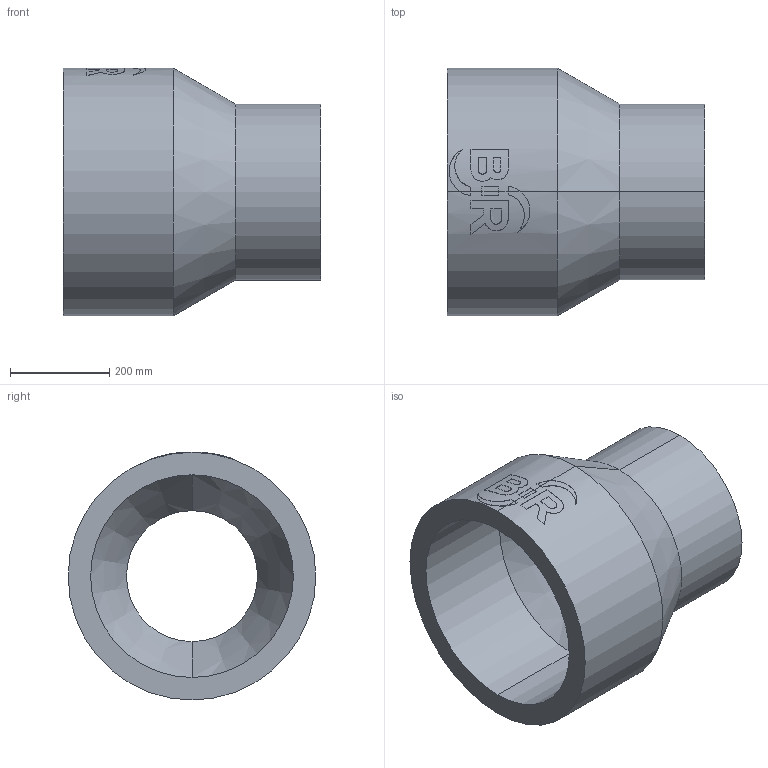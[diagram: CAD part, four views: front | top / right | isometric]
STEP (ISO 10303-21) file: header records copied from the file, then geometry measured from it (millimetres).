
FILE_DESCRIPTION (( 'STEP AP214' ), '1' );
FILE_NAME ('2323272415.STEP', '2018-07-20T09:34:26', ( '' ), ( '' ), 'SwSTEP 2.0', 'SolidWorks 2017', '' );
FILE_SCHEMA (( 'AUTOMOTIVE_DESIGN' ));
Length unit declared in the file: millimetre
Products named in the file (1): 2323272415
Bounding box: 520 x 500 x 500.46 mm (x, y, z)
Volume: 29790948.4 mm3; surface area: 1421849.1 mm2
Topology: 1 solids, 1 shells, 63 faces, 160 edges, 104 vertices
Faces by surface type: cylinder 31, plane 28, cone 4
Entity records: 3508 total; most frequent: CARTESIAN_POINT 1299, ORIENTED_EDGE 320, DIRECTION 296, EDGE_CURVE 160, AXIS2_PLACEMENT_3D 112, VERTEX_POINT 104, VECTOR 72, LINE 72
